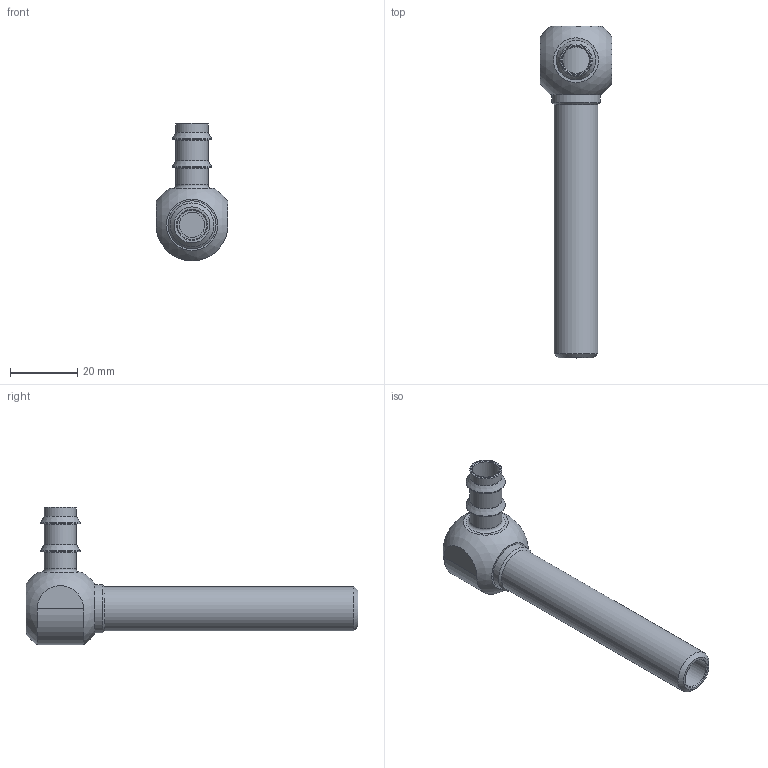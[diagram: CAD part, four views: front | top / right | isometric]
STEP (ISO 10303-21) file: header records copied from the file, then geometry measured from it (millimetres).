
FILE_DESCRIPTION(/* description */ (''),/* implementation_level */ '2;1');
FILE_NAME(/* name */ 'C:/Users/drich/Desktop/WJ14-L v1.step',/* time_stamp */ '2019-11-18T19:59:09-06:00',/* author */ (''),/* organization */ (''),/* preprocessor_version */ 'ST-DEVELOPER v18',/* originating_system */ 'Autodesk Translation Framework v8.12.0.6',/* authorisation */ '');
FILE_SCHEMA (('AUTOMOTIVE_DESIGN { 1 0 10303 214 3 1 1 }'));
Length unit declared in the file: inch
Products named in the file (4): WJ14-L; body 1; WJ14-L SHAFT; WJ14-L SHAFT_1
Assembly tree (3 placements, depth 3):
  WJ14-L
    body 1
    WJ14-L SHAFT
      WJ14-L SHAFT_1
Bounding box: 21.34 x 98.42 x 40.84 mm (x, y, z)
Volume: 11058.8 mm3; surface area: 10894.4 mm2
Topology: 2 solids, 2 shells, 81 faces, 225 edges, 163 vertices
Faces by surface type: plane 26, cylinder 20, torus 19, cone 15, sphere 1
Full cylindrical faces by diameter (mm): 7.468 x1, 7.925 x1, 8.712 x1, 9.525 x3, 11.684 x2, 12.573 x1, 12.7 x1, 12.802 x1, 12.827 x2, 13.032 x1, 13.056 x1, 14.275 x1, 15.621 x2, 18.796 x1
Entity records: 2889 total; most frequent: DIRECTION 549, CARTESIAN_POINT 523, ORIENTED_EDGE 448, AXIS2_PLACEMENT_3D 247, EDGE_CURVE 224, VERTEX_POINT 163, CIRCLE 159, EDGE_LOOP 101
